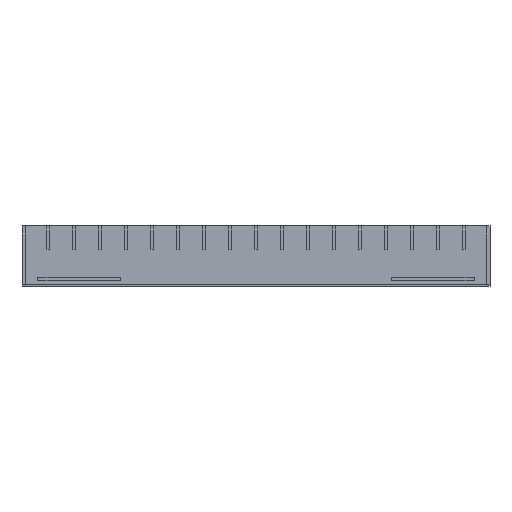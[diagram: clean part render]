
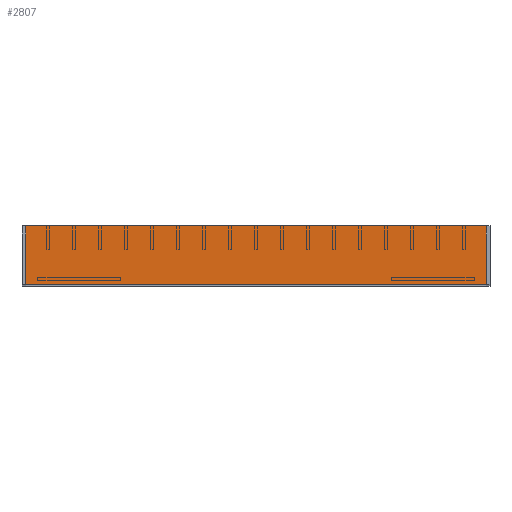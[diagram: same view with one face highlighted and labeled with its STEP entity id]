
A CAD part, top view. The second image highlights one B-rep face of the part: STEP entity #2807.
In plain terms, the highlighted planar face has unit normal (0, 0, 1).
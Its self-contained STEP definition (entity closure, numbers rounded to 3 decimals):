
#143 = ORIENTED_EDGE ( 'NONE', *, *, #228, .T. ) ;
#218 = DIRECTION ( 'NONE',  ( 0., -1., 0. ) ) ;
#228 = EDGE_CURVE ( 'NONE', #1643, #6551, #6444, .T. ) ;
#252 = CARTESIAN_POINT ( 'NONE',  ( -63.234, -4.407, 3. ) ) ;
#290 = VERTEX_POINT ( 'NONE', #2182 ) ;
#959 = PLANE ( 'NONE',  #3466 ) ;
#1643 = VERTEX_POINT ( 'NONE', #3237 ) ;
#1845 = DIRECTION ( 'NONE',  ( 1., 0., 0. ) ) ;
#1863 = FACE_OUTER_BOUND ( 'NONE', #7027, .T. ) ;
#2182 = CARTESIAN_POINT ( 'NONE',  ( -63.234, 45.593, 3. ) ) ;
#2771 = CARTESIAN_POINT ( 'NONE',  ( 330.766, 45.593, 3. ) ) ;
#2807 = ADVANCED_FACE ( 'NONE', ( #1863 ), #959, .T. ) ;
#2874 = CARTESIAN_POINT ( 'NONE',  ( -63.234, -4.407, 3. ) ) ;
#3046 = VECTOR ( 'NONE', #6554, 1000. ) ;
#3130 = LINE ( 'NONE', #7851, #6524 ) ;
#3237 = CARTESIAN_POINT ( 'NONE',  ( 330.766, -4.407, 3. ) ) ;
#3466 = AXIS2_PLACEMENT_3D ( 'NONE', #2874, #7320, #3488 ) ;
#3488 = DIRECTION ( 'NONE',  ( 1., 0., 0. ) ) ;
#3827 = LINE ( 'NONE', #5666, #5539 ) ;
#4006 = ORIENTED_EDGE ( 'NONE', *, *, #6969, .T. ) ;
#4520 = VECTOR ( 'NONE', #5765, 1000. ) ;
#5122 = CARTESIAN_POINT ( 'NONE',  ( -63.234, 45.593, 3. ) ) ;
#5539 = VECTOR ( 'NONE', #1845, 1000. ) ;
#5626 = ORIENTED_EDGE ( 'NONE', *, *, #7348, .T. ) ;
#5666 = CARTESIAN_POINT ( 'NONE',  ( -63.234, -4.407, 3. ) ) ;
#5725 = VERTEX_POINT ( 'NONE', #252 ) ;
#5765 = DIRECTION ( 'NONE',  ( -1., 0., 0. ) ) ;
#5891 = CARTESIAN_POINT ( 'NONE',  ( 330.766, 45.593, 3. ) ) ;
#6246 = LINE ( 'NONE', #5122, #4520 ) ;
#6444 = LINE ( 'NONE', #5891, #3046 ) ;
#6524 = VECTOR ( 'NONE', #218, 1000. ) ;
#6551 = VERTEX_POINT ( 'NONE', #2771 ) ;
#6554 = DIRECTION ( 'NONE',  ( 0., 1., 0. ) ) ;
#6969 = EDGE_CURVE ( 'NONE', #5725, #1643, #3827, .T. ) ;
#7027 = EDGE_LOOP ( 'NONE', ( #5626, #4006, #143, #7428 ) ) ;
#7104 = EDGE_CURVE ( 'NONE', #6551, #290, #6246, .T. ) ;
#7320 = DIRECTION ( 'NONE',  ( 0., 0., 1. ) ) ;
#7348 = EDGE_CURVE ( 'NONE', #290, #5725, #3130, .T. ) ;
#7428 = ORIENTED_EDGE ( 'NONE', *, *, #7104, .T. ) ;
#7851 = CARTESIAN_POINT ( 'NONE',  ( -63.234, 45.593, 3. ) ) ;
